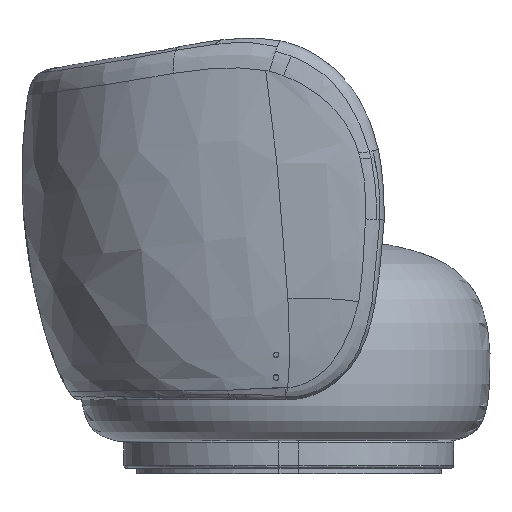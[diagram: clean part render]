
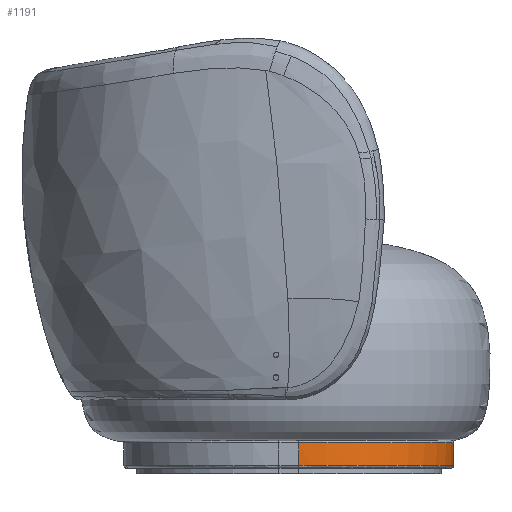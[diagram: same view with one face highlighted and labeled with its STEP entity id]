
A CAD part, left-side view. The second image highlights one B-rep face of the part: STEP entity #1191.
In plain terms, the highlighted free-form (B-spline) face has degree [2, 1] with [9, 2] control points.
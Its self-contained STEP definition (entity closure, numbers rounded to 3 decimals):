
#194=B_SPLINE_CURVE_WITH_KNOTS('',1,(#11363,#11364),.UNSPECIFIED.,.F.,.F.,
(2,2),(-40.,0.),.UNSPECIFIED.);
#201=B_SPLINE_CURVE_WITH_KNOTS('',1,(#11416,#11417),.UNSPECIFIED.,.F.,.F.,
(2,2),(0.,40.),.UNSPECIFIED.);
#1191=ADVANCED_FACE('',(#1593),#6867,.T.);
#1593=FACE_OUTER_BOUND('',#2039,.T.);
#2039=EDGE_LOOP('',(#2874,#2875,#2876,#2877));
#2874=ORIENTED_EDGE('',*,*,#4847,.F.);
#2875=ORIENTED_EDGE('',*,*,#4848,.T.);
#2876=ORIENTED_EDGE('',*,*,#4843,.F.);
#2877=ORIENTED_EDGE('',*,*,#4828,.T.);
#4828=EDGE_CURVE('',#6183,#6182,#194,.T.);
#4843=EDGE_CURVE('',#6183,#6184,#5870,.T.);
#4847=EDGE_CURVE('',#6185,#6182,#5874,.T.);
#4848=EDGE_CURVE('',#6185,#6184,#201,.T.);
#5870=(
BOUNDED_CURVE()
B_SPLINE_CURVE(2,(#11401,#11402,#11403),.UNSPECIFIED.,.F.,.F.)
B_SPLINE_CURVE_WITH_KNOTS((3,3),(0.,431.969),.UNSPECIFIED.)
CURVE()
GEOMETRIC_REPRESENTATION_ITEM()
RATIONAL_B_SPLINE_CURVE((1.,0.707,1.))
REPRESENTATION_ITEM('')
);
#5874=(
BOUNDED_CURVE()
B_SPLINE_CURVE(2,(#11413,#11414,#11415),.UNSPECIFIED.,.F.,.F.)
B_SPLINE_CURVE_WITH_KNOTS((3,3),(1272.345,1696.46),
 .UNSPECIFIED.)
CURVE()
GEOMETRIC_REPRESENTATION_ITEM()
RATIONAL_B_SPLINE_CURVE((1.,0.707,1.))
REPRESENTATION_ITEM('')
);
#6182=VERTEX_POINT('',#10646);
#6183=VERTEX_POINT('',#10647);
#6184=VERTEX_POINT('',#10648);
#6185=VERTEX_POINT('',#10649);
#6867=(
BOUNDED_SURFACE()
B_SPLINE_SURFACE(2,1,((#10396,#10397),(#10398,#10399),(#10400,#10401),(#10402,
#10403),(#10404,#10405),(#10406,#10407),(#10408,#10409),(#10410,#10411),
(#10412,#10413)),.UNSPECIFIED.,.T.,.F.,.F.)
B_SPLINE_SURFACE_WITH_KNOTS((3,2,2,2,3),(2,2),(0.,431.969,863.938,
1295.907,1727.876),(0.,48.),.UNSPECIFIED.)
GEOMETRIC_REPRESENTATION_ITEM()
RATIONAL_B_SPLINE_SURFACE(((1.,1.),(0.707,0.707),
(1.,1.),(0.707,0.707),(1.,1.),(0.707,
0.707),(1.,1.),(0.707,0.707),(1.,1.)))
REPRESENTATION_ITEM('')
SURFACE()
);
#10396=CARTESIAN_POINT('',(-52.354,224.727,59.017));
#10397=CARTESIAN_POINT('',(-52.354,224.727,11.017));
#10398=CARTESIAN_POINT('',(222.646,224.727,59.017));
#10399=CARTESIAN_POINT('',(222.646,224.727,11.017));
#10400=CARTESIAN_POINT('',(222.646,-50.273,59.017));
#10401=CARTESIAN_POINT('',(222.646,-50.273,11.017));
#10402=CARTESIAN_POINT('',(222.646,-325.273,59.017));
#10403=CARTESIAN_POINT('',(222.646,-325.273,11.017));
#10404=CARTESIAN_POINT('',(-52.354,-325.273,59.017));
#10405=CARTESIAN_POINT('',(-52.354,-325.273,11.017));
#10406=CARTESIAN_POINT('',(-327.354,-325.273,59.017));
#10407=CARTESIAN_POINT('',(-327.354,-325.273,11.017));
#10408=CARTESIAN_POINT('',(-327.354,-50.273,59.017));
#10409=CARTESIAN_POINT('',(-327.354,-50.273,11.017));
#10410=CARTESIAN_POINT('',(-327.354,224.727,59.017));
#10411=CARTESIAN_POINT('',(-327.354,224.727,11.017));
#10412=CARTESIAN_POINT('',(-52.354,224.727,59.017));
#10413=CARTESIAN_POINT('',(-52.354,224.727,11.017));
#10646=CARTESIAN_POINT('',(-52.354,-325.273,55.017));
#10647=CARTESIAN_POINT('',(-52.354,-325.273,15.017));
#10648=CARTESIAN_POINT('',(-327.354,-50.273,15.017));
#10649=CARTESIAN_POINT('',(-327.354,-50.273,55.017));
#11363=CARTESIAN_POINT('',(-52.354,-325.273,15.017));
#11364=CARTESIAN_POINT('',(-52.354,-325.273,55.017));
#11401=CARTESIAN_POINT('',(-52.354,-325.273,15.017));
#11402=CARTESIAN_POINT('',(-327.354,-325.273,15.017));
#11403=CARTESIAN_POINT('',(-327.354,-50.273,15.017));
#11413=CARTESIAN_POINT('',(-327.354,-50.273,55.017));
#11414=CARTESIAN_POINT('',(-327.354,-325.273,55.017));
#11415=CARTESIAN_POINT('',(-52.354,-325.273,55.017));
#11416=CARTESIAN_POINT('',(-327.354,-50.273,55.017));
#11417=CARTESIAN_POINT('',(-327.354,-50.273,15.017));
